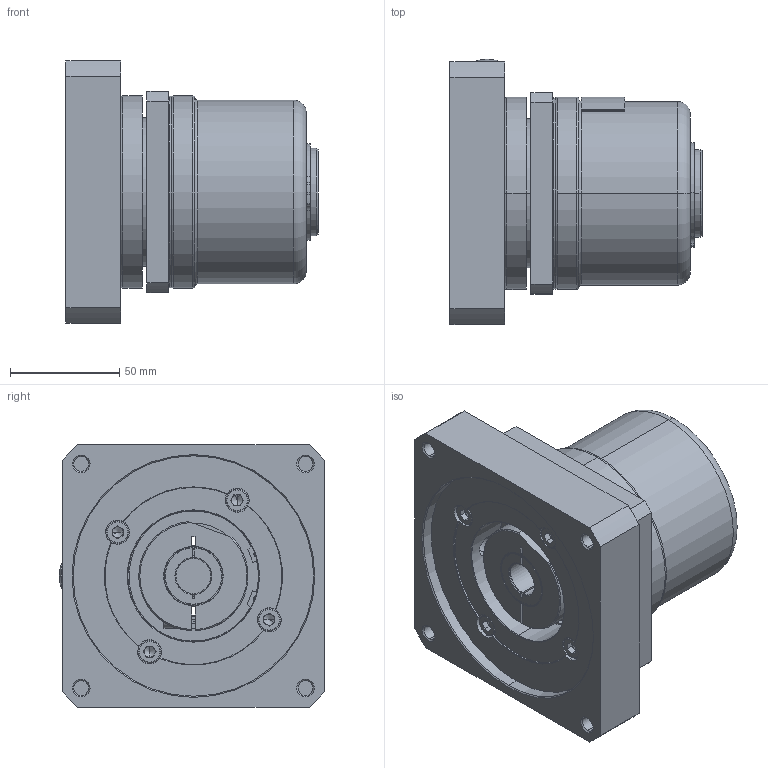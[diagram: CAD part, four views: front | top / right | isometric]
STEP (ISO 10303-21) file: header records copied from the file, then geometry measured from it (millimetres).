
FILE_DESCRIPTION (( 'STEP AP214' ), '1' );
FILE_NAME ('PL-020-0RR-FFF-MMM-F-LL-XXX-BXX-DDCC.STEP', '2019-10-24T15:09:27', ( '' ), ( '' ), 'SwSTEP 2.0', 'SolidWorks 2019', '' );
FILE_SCHEMA (( 'AUTOMOTIVE_DESIGN' ));
Length unit declared in the file: millimetre
Products named in the file (1): PL-020-0RR-FFF-MMM-F-LL-XXX-BXX-DDCC
Bounding box: 115.3 x 121.27 x 120 mm (x, y, z)
Surface area: 90660.7 mm2 (no closed solid volume)
Topology: 0 solids, 21 shells, 322 faces, 965 edges, 650 vertices
Faces by surface type: cylinder 117, plane 96, cone 73, torus 32, bspline 2, sphere 2
Entity records: 14864 total; most frequent: CARTESIAN_POINT 2629, DIRECTION 1934, ORIENTED_EDGE 1597, EDGE_CURVE 957, AXIS2_PLACEMENT_3D 764, VERTEX_POINT 650, CIRCLE 443, LINE 406
